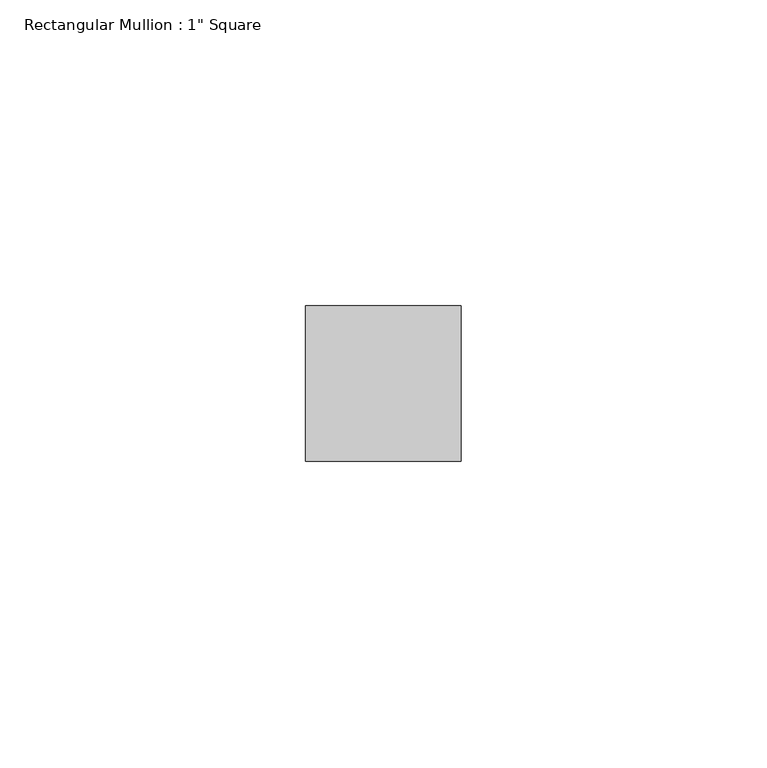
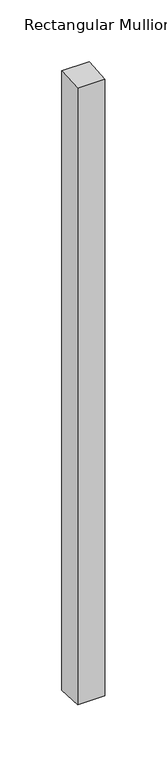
"""IFC4 building model written with IfcOpenShell, lengths in millimetres: member geometry."""

import ifcopenshell
import ifcopenshell.guid

model = None  # the IFC model being written
_history = None  # IfcOwnerHistory: only IFC2X3 demands one
_inside = {}  # id of a spatial element -> (the spatial element, [elements in it])
_under = {}  # id of a project, library or spatial element -> (it, [spatial elements below it])
_declared = {}  # id of a project -> (the project, [libraries it declares])
_typed = {}  # id of a type object -> (the type object, [elements of that type])
_made_of = {}  # id of a material, layer set ... -> (it, [elements and type objects made of it])


def new_model(schema):
    """Start an empty IFC model of exactly this schema.

    Asked for "IFC4X3", IfcOpenShell would pick the latest addendum, in which some entities
    have other attributes; the version numbers below select the first issue.
    IFC2X3 requires an IfcOwnerHistory on every rooted entity: one is made here for all.
    """
    global model, _history
    if schema == "IFC4X3":
        model = ifcopenshell.file(schema_version=(4, 3, 0, 0))
    else:
        model = ifcopenshell.file(schema=schema)
    _inside.clear()
    _under.clear()
    _declared.clear()
    _typed.clear()
    _made_of.clear()
    _history = None
    if model.schema == "IFC2X3":
        org = make("IfcOrganization", Name="unknown")
        user = make(
            "IfcPersonAndOrganization",
            ThePerson=make("IfcPerson", FamilyName="unknown"),
            TheOrganization=org,
        )
        app = make(
            "IfcApplication",
            ApplicationDeveloper=org,
            Version="unknown",
            ApplicationFullName="unknown",
            ApplicationIdentifier="unknown",
        )
        _history = make(
            "IfcOwnerHistory",
            OwningUser=user,
            OwningApplication=app,
            ChangeAction="ADDED",
            CreationDate=0,
        )
    return model


def make(cls, **values):
    """One entity of the class cls with the attributes given. An attribute that is None is left unset."""
    return model.create_entity(
        cls, **{name: value for name, value in values.items() if value is not None}
    )


def rooted(cls, **values):
    """An entity with a GlobalId (a new one), such as an element, a storey or a relation."""
    return make(cls, GlobalId=ifcopenshell.guid.new(), OwnerHistory=_history, **values)


def si_unit(unit_type, name, prefix=None):
    """IfcSIUnit, for example si_unit("LENGTHUNIT", "METRE", prefix="MILLI")."""
    return make("IfcSIUnit", UnitType=unit_type, Prefix=prefix, Name=name)


def assignment(units):
    """IfcUnitAssignment: the units of a project."""
    return None if units is None else make("IfcUnitAssignment", Units=units)


def point(xyz):
    """IfcCartesianPoint."""
    return None if xyz is None else make("IfcCartesianPoint", Coordinates=xyz)


def direction(xyz):
    """IfcDirection."""
    return None if xyz is None else make("IfcDirection", DirectionRatios=xyz)


def frame(location, z_axis=None, x_axis=None):
    """IfcAxis2Placement3D, a coordinate frame: its origin and axes. An axis left out is left unset."""
    return make(
        "IfcAxis2Placement3D",
        Location=point(location),
        Axis=direction(z_axis),
        RefDirection=direction(x_axis),
    )


def origin():
    """The frame at (0, 0, 0) with its axes left unset."""
    return frame((0.0, 0.0, 0.0))


def place(relative_to, where):
    """IfcLocalPlacement: puts the frame where relative to a parent placement (None: the world)."""
    return make(
        "IfcLocalPlacement", PlacementRelTo=relative_to, RelativePlacement=where
    )


def context(
    kind, dimensions, precision=None, world=None, true_north=None, identifier=None
):
    """IfcGeometricRepresentationContext, for example the 3D "Model" context."""
    return make(
        "IfcGeometricRepresentationContext",
        ContextIdentifier=identifier,
        ContextType=kind,
        CoordinateSpaceDimension=dimensions,
        Precision=precision,
        WorldCoordinateSystem=world,
        TrueNorth=true_north,
    )


def project(units=None, contexts=None):
    """IfcProject with its units and contexts."""
    return rooted(
        "IfcProject",
        Name="project",
        RepresentationContexts=contexts,
        UnitsInContext=assignment(units),
    )


def spatial(cls, under=None, at=None, **own):
    """A site, building, storey or space (cls), placed at a placement, below another one or the project."""
    s = rooted(cls, ObjectPlacement=at, **own)
    if under is not None:
        _under.setdefault(under.id(), (under, []))[1].append(s)
    return s


def faces_of(points, faces, orient=None, outer=None):
    """IfcFace entities. A face is a list of loops; a loop is a list of indices into points, from 0.

    orient and outer hold one flag for each loop. By default every Orientation is true, the
    first loop of a face is its IfcFaceOuterBound and the others are IfcFaceBound.
    """
    made = []
    for i, loops in enumerate(faces):
        bounds = []
        for j, loop in enumerate(loops):
            is_outer = j == 0 if outer is None else outer[i][j]
            bounds.append(
                make(
                    "IfcFaceOuterBound" if is_outer else "IfcFaceBound",
                    Bound=make("IfcPolyLoop", Polygon=[points[k] for k in loop]),
                    Orientation=True if orient is None else orient[i][j],
                )
            )
        made.append(make("IfcFace", Bounds=bounds))
    return made


def faceted_brep(points, faces, orient=None, outer=None, voids=None):
    """IfcFacetedBrep: a solid bounded by flat faces; with voids (closed shells), ...WithVoids."""
    shared = [point(p) for p in points]
    hull = make("IfcClosedShell", CfsFaces=faces_of(shared, faces, orient, outer))
    if voids is None:
        return make("IfcFacetedBrep", Outer=hull)
    return make(
        "IfcFacetedBrepWithVoids",
        Outer=hull,
        Voids=[
            make(cls, CfsFaces=faces_of(shared, fs, o, b)) for cls, fs, o, b in voids
        ],
    )


def shape(context_of_items, identifier, shape_type, items):
    """IfcShapeRepresentation: the items that make up one representation, for example the "Body"."""
    return make(
        "IfcShapeRepresentation",
        ContextOfItems=context_of_items,
        RepresentationIdentifier=identifier,
        RepresentationType=shape_type,
        Items=items,
    )


def source(mapping_origin, context_of_items, identifier, shape_type, items):
    """IfcRepresentationMap: a shape defined once, which mapped items show again and again."""
    return make(
        "IfcRepresentationMap",
        MappingOrigin=mapping_origin,
        MappedRepresentation=shape(context_of_items, identifier, shape_type, items),
    )


def transform(
    local_origin,
    x_axis=None,
    y_axis=None,
    z_axis=None,
    scale=None,
    scale2=None,
    scale3=None,
    uniform=True,
):
    """IfcCartesianTransformationOperator3D, or its non-uniform kind. x_axis, y_axis, z_axis: its Axis1, 2, 3."""
    if uniform:
        return make(
            "IfcCartesianTransformationOperator3D",
            Axis1=direction(x_axis),
            Axis2=direction(y_axis),
            LocalOrigin=point(local_origin),
            Scale=scale,
            Axis3=direction(z_axis),
        )
    return make(
        "IfcCartesianTransformationOperator3DnonUniform",
        Axis1=direction(x_axis),
        Axis2=direction(y_axis),
        LocalOrigin=point(local_origin),
        Scale=scale,
        Axis3=direction(z_axis),
        Scale2=scale2,
        Scale3=scale3,
    )


def mapped(mapping_source, mapping_target):
    """IfcMappedItem: shows the shape of a source again, moved by a transform."""
    return make(
        "IfcMappedItem", MappingSource=mapping_source, MappingTarget=mapping_target
    )


def made_of(thing, what):
    """Note that an element or type object is made of a material, layer set ...; save() writes the relation."""
    if what is not None:
        _made_of.setdefault(what.id(), (what, []))[1].append(thing)
    return thing


def element(
    cls,
    number,
    at=None,
    inside=None,
    cuts=None,
    type_object=None,
    material=None,
    context=None,
    identifier="Body",
    shape_type=None,
    held_by="IfcProductDefinitionShape",
    body=None,
    shapes=None,
    **own,
):
    """One element of the class cls, such as IfcWall. Its Tag is "e" and its number.

    at: its placement. inside: the storey or other place that contains it. cuts: it is an
    opening in that element (IfcRelVoidsElement). A single representation is given by context,
    identifier, shape_type and body (its items); several are given by shapes. held_by: the class
    of the entity that holds the representations. save() writes the other relations.
    """
    e = rooted(cls, Tag="e%d" % number, ObjectPlacement=at, **own)
    if body is not None:
        shapes = [shape(context, identifier, shape_type, body)]
    if shapes is not None:
        e.Representation = make(held_by, Representations=shapes)
    if inside is not None:
        _inside.setdefault(inside.id(), (inside, []))[1].append(e)
    if cuts is not None:
        rooted(
            "IfcRelVoidsElement", RelatingBuildingElement=cuts, RelatedOpeningElement=e
        )
    if type_object is not None:
        _typed.setdefault(type_object.id(), (type_object, []))[1].append(e)
    return made_of(e, material)


def aggregate(whole, parts):
    """IfcRelAggregates: a whole, such as a stair, and the parts it consists of."""
    return rooted("IfcRelAggregates", RelatingObject=whole, RelatedObjects=parts)


def save(model, path):
    """Write the relations noted so far, then the file.

    IfcRelAggregates (storeys below a building ...), IfcRelContainedInSpatialStructure (elements
    in a storey), IfcRelDefinesByType, IfcRelAssociatesMaterial and IfcRelDeclares: one each for
    every whole, place, type object, material and project.
    """
    for whole, parts in _under.values():
        aggregate(whole, parts)
    for where, things in _inside.values():
        rooted(
            "IfcRelContainedInSpatialStructure",
            RelatedElements=things,
            RelatingStructure=where,
        )
    for kind, things in _typed.values():
        rooted("IfcRelDefinesByType", RelatedObjects=things, RelatingType=kind)
    for what, things in _made_of.values():
        rooted("IfcRelAssociatesMaterial", RelatedObjects=things, RelatingMaterial=what)
    for by, libraries in _declared.values():
        rooted("IfcRelDeclares", RelatingContext=by, RelatedDefinitions=libraries)
    model.write(path)


def member_9defe418(model_context):
    return source(origin(), model_context, "Body", "Brep", [
        faceted_brep([(-25.4, 12.7, 0.7675294), (0.0, 12.7, 0.7587284), (0.0, 12.7, -610.3587284), (-25.4, 12.7, -610.3675294), (-25.4, -12.7, -0.7499273), (-25.4, -12.7, -608.8500727), (0.0, -12.7, -0.7587284), (0.0, -12.7, -608.8412716)], [[[0, 1, 2, 3]], [[4, 0, 3, 5]], [[6, 4, 5, 7]], [[1, 6, 7, 2]], [[1, 0, 4, 6]], [[2, 7, 5, 3]]]),
    ])


if __name__ == "__main__":
    model = new_model("IFC4")
    model_context = context("Model", 3, world=origin())
    ifc_project = project(units=[si_unit("LENGTHUNIT", "METRE", prefix="MILLI")], contexts=[model_context])
    site = spatial("IfcSite", under=ifc_project)
    building = spatial("IfcBuilding", under=site)
    placement = place(None, origin())
    member_shape = member_9defe418(model_context)
    element("IfcMember", 1, ObjectType="Rectangular Mullion : 1\" Square", at=placement, inside=building, context=model_context, shape_type="MappedRepresentation", body=[
        mapped(member_shape, transform((0.0, 0.0, 0.0), x_axis=(1.0, 0.0, 0.0), y_axis=(0.0, 1.0, 0.0), z_axis=(0.0, 0.0, 1.0))),
    ])
    save(model, "model.ifc")
